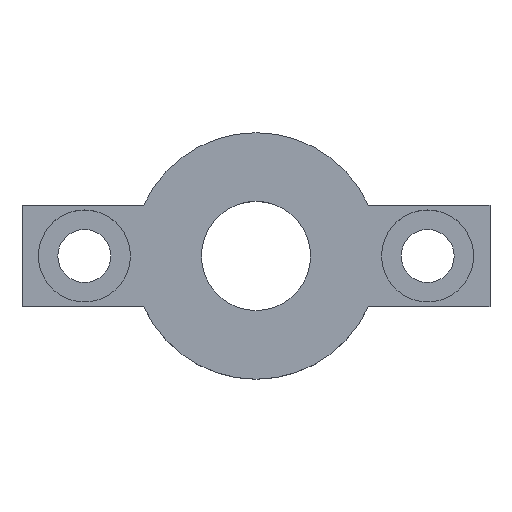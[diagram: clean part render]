
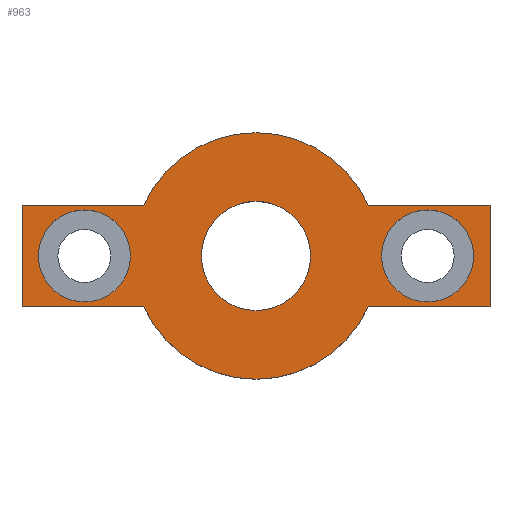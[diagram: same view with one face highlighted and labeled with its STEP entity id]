
A CAD part, top view. The second image highlights one B-rep face of the part: STEP entity #963.
In plain terms, the highlighted planar face has unit normal (0, 0, 1).
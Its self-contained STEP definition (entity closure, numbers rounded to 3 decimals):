
#440=DIRECTION('',(0.,-1.,0.));
#441=VECTOR('',#440,6.5);
#442=CARTESIAN_POINT('',(15.,3.25,4.));
#443=LINE('',#442,#441);
#461=DIRECTION('',(1.,0.,0.));
#462=VECTOR('',#461,7.799);
#463=CARTESIAN_POINT('',(7.201,3.25,4.));
#464=LINE('',#463,#462);
#482=CARTESIAN_POINT('',(0.,0.,4.));
#483=DIRECTION('',(0.,0.,-1.));
#484=DIRECTION('',(0.911,-0.411,0.));
#485=AXIS2_PLACEMENT_3D('',#482,#483,#484);
#490=DIRECTION('',(-1.,0.,0.));
#491=VECTOR('',#490,7.799);
#492=CARTESIAN_POINT('',(-7.201,-3.25,4.));
#493=LINE('',#492,#491);
#497=CARTESIAN_POINT('',(0.,0.,4.));
#498=DIRECTION('',(0.,0.,-1.));
#499=DIRECTION('',(-0.911,0.411,0.));
#500=AXIS2_PLACEMENT_3D('',#497,#498,#499);
#505=DIRECTION('',(-1.,0.,0.));
#506=VECTOR('',#505,7.799);
#507=CARTESIAN_POINT('',(15.,-3.25,4.));
#508=LINE('',#507,#506);
#512=CARTESIAN_POINT('',(-11.,0.,4.));
#513=DIRECTION('',(0.,0.,1.));
#514=DIRECTION('',(1.,0.,0.));
#515=AXIS2_PLACEMENT_3D('',#512,#513,#514);
#520=CARTESIAN_POINT('',(-11.,0.,4.));
#521=DIRECTION('',(0.,0.,1.));
#522=DIRECTION('',(-1.,0.,0.));
#523=AXIS2_PLACEMENT_3D('',#520,#521,#522);
#528=CARTESIAN_POINT('',(11.,0.,4.));
#529=DIRECTION('',(0.,0.,1.));
#530=DIRECTION('',(1.,0.,0.));
#531=AXIS2_PLACEMENT_3D('',#528,#529,#530);
#536=CARTESIAN_POINT('',(11.,0.,4.));
#537=DIRECTION('',(0.,0.,1.));
#538=DIRECTION('',(-1.,0.,0.));
#539=AXIS2_PLACEMENT_3D('',#536,#537,#538);
#544=CARTESIAN_POINT('',(0.,0.,4.));
#545=DIRECTION('',(0.,0.,1.));
#546=DIRECTION('',(1.,0.,0.));
#547=AXIS2_PLACEMENT_3D('',#544,#545,#546);
#552=CARTESIAN_POINT('',(0.,0.,4.));
#553=DIRECTION('',(0.,0.,1.));
#554=DIRECTION('',(-1.,0.,0.));
#555=AXIS2_PLACEMENT_3D('',#552,#553,#554);
#574=DIRECTION('',(0.,1.,0.));
#575=VECTOR('',#574,6.5);
#576=CARTESIAN_POINT('',(-15.,-3.25,4.));
#577=LINE('',#576,#575);
#588=DIRECTION('',(1.,0.,0.));
#589=VECTOR('',#588,7.799);
#590=CARTESIAN_POINT('',(-15.,3.25,4.));
#591=LINE('',#590,#589);
#730=CARTESIAN_POINT('',(-7.201,-3.25,4.));
#732=VERTEX_POINT('',#730);
#733=CARTESIAN_POINT('',(7.201,-3.25,4.));
#734=VERTEX_POINT('',#733);
#737=CARTESIAN_POINT('',(-15.,-3.25,4.));
#738=VERTEX_POINT('',#737);
#741=CARTESIAN_POINT('',(15.,-3.25,4.));
#743=VERTEX_POINT('',#741);
#753=CARTESIAN_POINT('',(-15.,3.25,4.));
#754=VERTEX_POINT('',#753);
#755=CARTESIAN_POINT('',(-7.201,3.25,4.));
#756=VERTEX_POINT('',#755);
#757=CARTESIAN_POINT('',(7.201,3.25,4.));
#758=VERTEX_POINT('',#757);
#759=CARTESIAN_POINT('',(15.,3.25,4.));
#760=VERTEX_POINT('',#759);
#777=CARTESIAN_POINT('',(-8.05,0.,4.));
#779=VERTEX_POINT('',#777);
#781=CARTESIAN_POINT('',(-13.95,0.,4.));
#782=VERTEX_POINT('',#781);
#785=CARTESIAN_POINT('',(13.95,0.,4.));
#787=VERTEX_POINT('',#785);
#789=CARTESIAN_POINT('',(8.05,0.,4.));
#790=VERTEX_POINT('',#789);
#797=CARTESIAN_POINT('',(3.5,0.,4.));
#798=CARTESIAN_POINT('',(-3.5,0.,4.));
#799=VERTEX_POINT('',#797);
#800=VERTEX_POINT('',#798);
#928=CARTESIAN_POINT('',(-7.201,-3.25,4.));
#929=DIRECTION('',(0.,0.,-1.));
#930=DIRECTION('',(-1.,0.,0.));
#931=AXIS2_PLACEMENT_3D('',#928,#929,#930);
#932=PLANE('',#931);
#933=ORIENTED_EDGE('',*,*,#808,.T.);
#934=ORIENTED_EDGE('',*,*,#827,.T.);
#936=ORIENTED_EDGE('',*,*,#935,.T.);
#938=ORIENTED_EDGE('',*,*,#937,.T.);
#939=ORIENTED_EDGE('',*,*,#920,.T.);
#940=ORIENTED_EDGE('',*,*,#909,.T.);
#941=ORIENTED_EDGE('',*,*,#895,.T.);
#942=ORIENTED_EDGE('',*,*,#881,.T.);
#943=EDGE_LOOP('',(#933,#934,#936,#938,#939,#940,#941,#942));
#944=FACE_OUTER_BOUND('',#943,.F.);
#946=ORIENTED_EDGE('',*,*,#945,.T.);
#948=ORIENTED_EDGE('',*,*,#947,.T.);
#949=EDGE_LOOP('',(#946,#948));
#950=FACE_BOUND('',#949,.F.);
#952=ORIENTED_EDGE('',*,*,#951,.T.);
#954=ORIENTED_EDGE('',*,*,#953,.T.);
#955=EDGE_LOOP('',(#952,#954));
#956=FACE_BOUND('',#955,.F.);
#958=ORIENTED_EDGE('',*,*,#957,.T.);
#960=ORIENTED_EDGE('',*,*,#959,.T.);
#961=EDGE_LOOP('',(#958,#960));
#962=FACE_BOUND('',#961,.F.);
#486=CIRCLE('',#485,7.9);
#501=CIRCLE('',#500,7.9);
#516=CIRCLE('',#515,2.95);
#524=CIRCLE('',#523,2.95);
#532=CIRCLE('',#531,2.95);
#540=CIRCLE('',#539,2.95);
#548=CIRCLE('',#547,3.5);
#556=CIRCLE('',#555,3.5);
#808=EDGE_CURVE('',#734,#732,#486,.T.);
#827=EDGE_CURVE('',#732,#738,#493,.T.);
#881=EDGE_CURVE('',#743,#734,#508,.T.);
#895=EDGE_CURVE('',#760,#743,#443,.T.);
#909=EDGE_CURVE('',#758,#760,#464,.T.);
#920=EDGE_CURVE('',#756,#758,#501,.T.);
#935=EDGE_CURVE('',#738,#754,#577,.T.);
#937=EDGE_CURVE('',#754,#756,#591,.T.);
#945=EDGE_CURVE('',#779,#782,#516,.T.);
#947=EDGE_CURVE('',#782,#779,#524,.T.);
#951=EDGE_CURVE('',#787,#790,#532,.T.);
#953=EDGE_CURVE('',#790,#787,#540,.T.);
#957=EDGE_CURVE('',#799,#800,#548,.T.);
#959=EDGE_CURVE('',#800,#799,#556,.T.);
#963=ADVANCED_FACE('',(#944,#950,#956,#962),#932,.F.);
